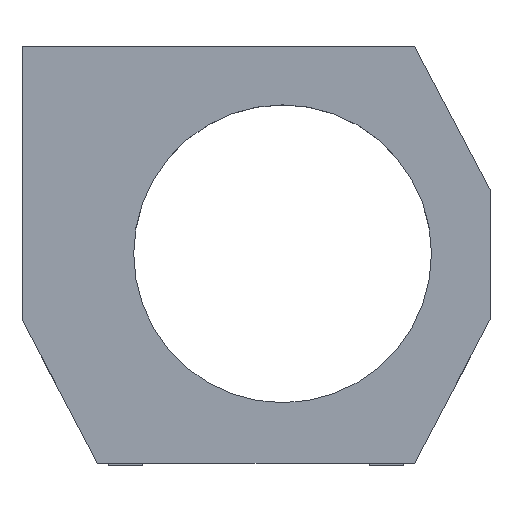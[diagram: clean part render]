
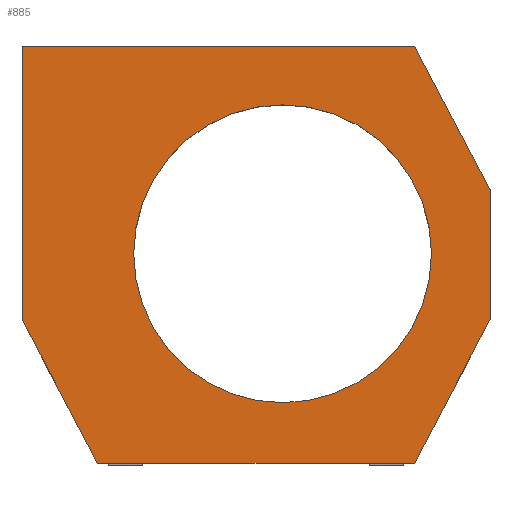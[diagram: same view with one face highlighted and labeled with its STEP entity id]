
A CAD part, top view. The second image highlights one B-rep face of the part: STEP entity #885.
In plain terms, the highlighted planar face has unit normal (0, 0, 1).
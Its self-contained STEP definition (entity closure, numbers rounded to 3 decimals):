
#6 = CARTESIAN_POINT ( 'NONE',  ( -122.5, 197., 16.5 ) ) ;
#65 = CIRCLE ( 'NONE', #1408, 70. ) ;
#89 = DIRECTION ( 'NONE',  ( 0.465, -0.885, 0. ) ) ;
#92 = CARTESIAN_POINT ( 'NONE',  ( -87., 1., 16.5 ) ) ;
#127 = CARTESIAN_POINT ( 'NONE',  ( -122.5, 68.5, 16.5 ) ) ;
#166 = CARTESIAN_POINT ( 'NONE',  ( 97.5, 129.5, 16.5 ) ) ;
#207 = DIRECTION ( 'NONE',  ( 1., 0., 0. ) ) ;
#220 = ORIENTED_EDGE ( 'NONE', *, *, #839, .T. ) ;
#225 = EDGE_LOOP ( 'NONE', ( #983, #1267, #654, #595, #543, #320, #220 ) ) ;
#272 = VERTEX_POINT ( 'NONE', #166 ) ;
#303 = DIRECTION ( 'NONE',  ( -0.465, 0.885, 0. ) ) ;
#304 = DIRECTION ( 'NONE',  ( 0., 1., 0. ) ) ;
#310 = VERTEX_POINT ( 'NONE', #1032 ) ;
#317 = CARTESIAN_POINT ( 'NONE',  ( 0., 0., 16.5 ) ) ;
#320 = ORIENTED_EDGE ( 'NONE', *, *, #887, .T. ) ;
#325 = LINE ( 'NONE', #1000, #1574 ) ;
#355 = EDGE_LOOP ( 'NONE', ( #383 ) ) ;
#379 = LINE ( 'NONE', #872, #396 ) ;
#383 = ORIENTED_EDGE ( 'NONE', *, *, #638, .F. ) ;
#384 = CARTESIAN_POINT ( 'NONE',  ( 62., 197., 16.5 ) ) ;
#396 = VECTOR ( 'NONE', #633, 1000. ) ;
#411 = CARTESIAN_POINT ( 'NONE',  ( -122.5, 197., 16.5 ) ) ;
#412 = CARTESIAN_POINT ( 'NONE',  ( 70., 99.5, 16.5 ) ) ;
#449 = AXIS2_PLACEMENT_3D ( 'NONE', #317, #451, #1676 ) ;
#451 = DIRECTION ( 'NONE',  ( 0., 0., 1. ) ) ;
#514 = CARTESIAN_POINT ( 'NONE',  ( 97.5, 68.5, 16.5 ) ) ;
#543 = ORIENTED_EDGE ( 'NONE', *, *, #890, .T. ) ;
#552 = DIRECTION ( 'NONE',  ( -1., 0., 0. ) ) ;
#595 = ORIENTED_EDGE ( 'NONE', *, *, #1606, .T. ) ;
#633 = DIRECTION ( 'NONE',  ( 1., 0., 0. ) ) ;
#638 = EDGE_CURVE ( 'NONE', #1121, #1121, #65, .T. ) ;
#654 = ORIENTED_EDGE ( 'NONE', *, *, #1095, .T. ) ;
#667 = LINE ( 'NONE', #917, #1026 ) ;
#714 = LINE ( 'NONE', #1235, #1431 ) ;
#745 = CARTESIAN_POINT ( 'NONE',  ( -122.5, 197., 16.5 ) ) ;
#839 = EDGE_CURVE ( 'NONE', #864, #1145, #1217, .T. ) ;
#844 = VERTEX_POINT ( 'NONE', #384 ) ;
#864 = VERTEX_POINT ( 'NONE', #745 ) ;
#872 = CARTESIAN_POINT ( 'NONE',  ( -87., 1., 16.5 ) ) ;
#885 = ADVANCED_FACE ( 'NONE', ( #1028, #1062 ), #1304, .T. ) ;
#887 = EDGE_CURVE ( 'NONE', #844, #864, #1560, .T. ) ;
#890 = EDGE_CURVE ( 'NONE', #272, #844, #325, .T. ) ;
#917 = CARTESIAN_POINT ( 'NONE',  ( 62., 1., 16.5 ) ) ;
#919 = EDGE_CURVE ( 'NONE', #1145, #1103, #714, .T. ) ;
#970 = CARTESIAN_POINT ( 'NONE',  ( 62., 1., 16.5 ) ) ;
#983 = ORIENTED_EDGE ( 'NONE', *, *, #919, .T. ) ;
#1000 = CARTESIAN_POINT ( 'NONE',  ( 97.5, 129.5, 16.5 ) ) ;
#1026 = VECTOR ( 'NONE', #1290, 1000. ) ;
#1028 = FACE_OUTER_BOUND ( 'NONE', #225, .T. ) ;
#1032 = CARTESIAN_POINT ( 'NONE',  ( 97.5, 68.5, 16.5 ) ) ;
#1062 = FACE_BOUND ( 'NONE', #355, .T. ) ;
#1066 = CARTESIAN_POINT ( 'NONE',  ( 0., 99.5, 16.5 ) ) ;
#1085 = VECTOR ( 'NONE', #1365, 1000. ) ;
#1095 = EDGE_CURVE ( 'NONE', #1656, #310, #667, .T. ) ;
#1103 = VERTEX_POINT ( 'NONE', #92 ) ;
#1111 = VECTOR ( 'NONE', #552, 1000. ) ;
#1121 = VERTEX_POINT ( 'NONE', #412 ) ;
#1145 = VERTEX_POINT ( 'NONE', #127 ) ;
#1163 = LINE ( 'NONE', #514, #1175 ) ;
#1175 = VECTOR ( 'NONE', #304, 1000. ) ;
#1217 = LINE ( 'NONE', #6, #1085 ) ;
#1225 = EDGE_CURVE ( 'NONE', #1103, #1656, #379, .T. ) ;
#1232 = DIRECTION ( 'NONE',  ( 0., 0., 1. ) ) ;
#1235 = CARTESIAN_POINT ( 'NONE',  ( -122.5, 68.5, 16.5 ) ) ;
#1267 = ORIENTED_EDGE ( 'NONE', *, *, #1225, .T. ) ;
#1290 = DIRECTION ( 'NONE',  ( 0.465, 0.885, 0. ) ) ;
#1304 = PLANE ( 'NONE',  #449 ) ;
#1365 = DIRECTION ( 'NONE',  ( 0., -1., 0. ) ) ;
#1408 = AXIS2_PLACEMENT_3D ( 'NONE', #1066, #1232, #207 ) ;
#1431 = VECTOR ( 'NONE', #89, 1000. ) ;
#1560 = LINE ( 'NONE', #411, #1111 ) ;
#1574 = VECTOR ( 'NONE', #303, 1000. ) ;
#1606 = EDGE_CURVE ( 'NONE', #310, #272, #1163, .T. ) ;
#1656 = VERTEX_POINT ( 'NONE', #970 ) ;
#1676 = DIRECTION ( 'NONE',  ( 1., 0., 0. ) ) ;
